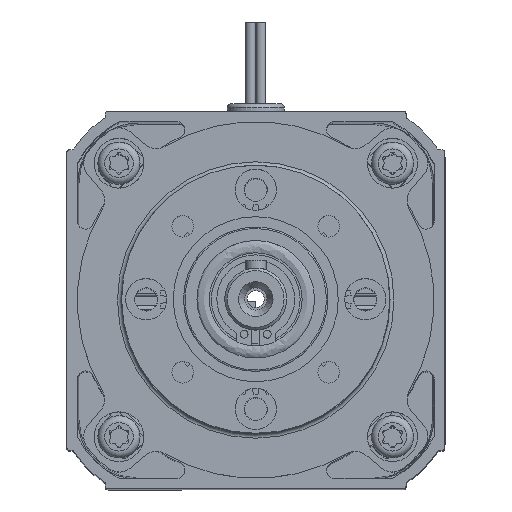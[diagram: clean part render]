
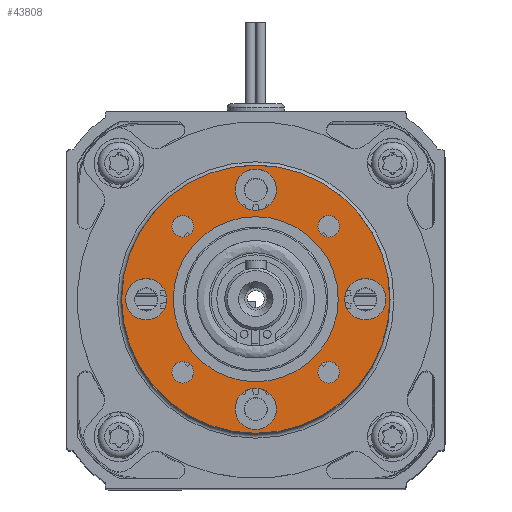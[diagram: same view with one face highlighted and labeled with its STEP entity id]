
A CAD part, top view. The second image highlights one B-rep face of the part: STEP entity #43808.
In plain terms, the highlighted planar face has unit normal (0, 0, 1).
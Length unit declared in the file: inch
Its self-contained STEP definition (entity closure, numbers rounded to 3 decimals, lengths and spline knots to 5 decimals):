
#190 = CIRCLE ( 'NONE', #33316, 0.15748 ) ;
#576 = AXIS2_PLACEMENT_3D ( 'NONE', #53735, #53467, #53278 ) ;
#1169 = AXIS2_PLACEMENT_3D ( 'NONE', #21220, #53957, #25968 ) ;
#1404 = CIRCLE ( 'NONE', #6071, 0.62992 ) ;
#2456 = DIRECTION ( 'NONE',  ( 0., 0., -1. ) ) ;
#2829 = DIRECTION ( 'NONE',  ( 1., 0., 0. ) ) ;
#3227 = EDGE_CURVE ( 'NONE', #24996, #24996, #53689, .T. ) ;
#5293 = EDGE_LOOP ( 'NONE', ( #51143 ) ) ;
#5496 = CARTESIAN_POINT ( 'NONE',  ( -0.4741, 0.55678, 3.573 ) ) ;
#5954 = DIRECTION ( 'NONE',  ( 0., 0., -1. ) ) ;
#6071 = AXIS2_PLACEMENT_3D ( 'NONE', #33899, #5954, #38636 ) ;
#6358 = CARTESIAN_POINT ( 'NONE',  ( 0.55678, 0.55678, 3.573 ) ) ;
#7122 = FACE_OUTER_BOUND ( 'NONE', #20999, .T. ) ;
#7201 = AXIS2_PLACEMENT_3D ( 'NONE', #30456, #2456, #35155 ) ;
#7214 = ORIENTED_EDGE ( 'NONE', *, *, #59225, .T. ) ;
#8120 = VERTEX_POINT ( 'NONE', #56893 ) ;
#8135 = EDGE_CURVE ( 'NONE', #59296, #59296, #47290, .T. ) ;
#8224 = AXIS2_PLACEMENT_3D ( 'NONE', #24610, #57266, #29314 ) ;
#8610 = FACE_BOUND ( 'NONE', #16215, .T. ) ;
#9772 = CARTESIAN_POINT ( 'NONE',  ( 0.15748, -0.83661, 3.573 ) ) ;
#10742 = AXIS2_PLACEMENT_3D ( 'NONE', #58752, #30819, #2829 ) ;
#10922 = AXIS2_PLACEMENT_3D ( 'NONE', #55933, #27949, #60574 ) ;
#11078 = DIRECTION ( 'NONE',  ( 1., 0., 0. ) ) ;
#14004 = DIRECTION ( 'NONE',  ( 0., 0., -1. ) ) ;
#14033 = EDGE_CURVE ( 'NONE', #44037, #44037, #48121, .T. ) ;
#14801 = VERTEX_POINT ( 'NONE', #27954 ) ;
#14947 = AXIS2_PLACEMENT_3D ( 'NONE', #41987, #14004, #46677 ) ;
#15317 = ORIENTED_EDGE ( 'NONE', *, *, #57658, .F. ) ;
#15753 = CARTESIAN_POINT ( 'NONE',  ( -0.83661, 0., 3.573 ) ) ;
#15805 = DIRECTION ( 'NONE',  ( 0., 0., -1. ) ) ;
#15949 = CIRCLE ( 'NONE', #7201, 0.15748 ) ;
#16215 = EDGE_LOOP ( 'NONE', ( #59387 ) ) ;
#16563 = CIRCLE ( 'NONE', #54519, 0.08268 ) ;
#16667 = EDGE_LOOP ( 'NONE', ( #17670 ) ) ;
#17670 = ORIENTED_EDGE ( 'NONE', *, *, #55185, .T. ) ;
#18389 = CARTESIAN_POINT ( 'NONE',  ( 0.99409, 0., 3.573 ) ) ;
#18794 = ORIENTED_EDGE ( 'NONE', *, *, #21888, .T. ) ;
#19539 = FACE_BOUND ( 'NONE', #16667, .T. ) ;
#19551 = CARTESIAN_POINT ( 'NONE',  ( 1.02362, 0., 3.573 ) ) ;
#20367 = DIRECTION ( 'NONE',  ( 1., 0., 0. ) ) ;
#20755 = CIRCLE ( 'NONE', #59690, 0.15748 ) ;
#20856 = EDGE_LOOP ( 'NONE', ( #30075 ) ) ;
#20985 = FACE_BOUND ( 'NONE', #37877, .T. ) ;
#20999 = EDGE_LOOP ( 'NONE', ( #15317 ) ) ;
#21220 = CARTESIAN_POINT ( 'NONE',  ( 0.83661, 0., 3.573 ) ) ;
#21888 = EDGE_CURVE ( 'NONE', #41126, #41126, #15949, .T. ) ;
#21992 = VERTEX_POINT ( 'NONE', #42902 ) ;
#22611 = ORIENTED_EDGE ( 'NONE', *, *, #3227, .T. ) ;
#22844 = CARTESIAN_POINT ( 'NONE',  ( 0.63945, -0.55678, 3.573 ) ) ;
#24610 = CARTESIAN_POINT ( 'NONE',  ( 0., 0., 3.573 ) ) ;
#24996 = VERTEX_POINT ( 'NONE', #31821 ) ;
#25968 = DIRECTION ( 'NONE',  ( 1., 0., 0. ) ) ;
#27949 = DIRECTION ( 'NONE',  ( 0., 0., 1. ) ) ;
#27954 = CARTESIAN_POINT ( 'NONE',  ( 0.63945, 0.55678, 3.573 ) ) ;
#29101 = ORIENTED_EDGE ( 'NONE', *, *, #29859, .T. ) ;
#29314 = DIRECTION ( 'NONE',  ( 1., 0., 0. ) ) ;
#29859 = EDGE_CURVE ( 'NONE', #14801, #14801, #16563, .T. ) ;
#30075 = ORIENTED_EDGE ( 'NONE', *, *, #14033, .T. ) ;
#30456 = CARTESIAN_POINT ( 'NONE',  ( 0., 0.83661, 3.573 ) ) ;
#30819 = DIRECTION ( 'NONE',  ( 0., 0., -1. ) ) ;
#31542 = CIRCLE ( 'NONE', #10742, 0.08268 ) ;
#31821 = CARTESIAN_POINT ( 'NONE',  ( -0.4741, -0.55678, 3.573 ) ) ;
#31949 = FACE_BOUND ( 'NONE', #36247, .T. ) ;
#33316 = AXIS2_PLACEMENT_3D ( 'NONE', #15753, #48440, #20367 ) ;
#33399 = FACE_BOUND ( 'NONE', #34006, .T. ) ;
#33899 = CARTESIAN_POINT ( 'NONE',  ( 0., 0., 3.573 ) ) ;
#34006 = EDGE_LOOP ( 'NONE', ( #18794 ) ) ;
#35155 = DIRECTION ( 'NONE',  ( 1., 0., 0. ) ) ;
#36247 = EDGE_LOOP ( 'NONE', ( #29101 ) ) ;
#37877 = EDGE_LOOP ( 'NONE', ( #7214 ) ) ;
#38636 = DIRECTION ( 'NONE',  ( 1., 0., 0. ) ) ;
#39047 = DIRECTION ( 'NONE',  ( 0., 0., -1. ) ) ;
#41126 = VERTEX_POINT ( 'NONE', #41904 ) ;
#41904 = CARTESIAN_POINT ( 'NONE',  ( 0.15748, 0.83661, 3.573 ) ) ;
#41987 = CARTESIAN_POINT ( 'NONE',  ( 0.55678, -0.55678, 3.573 ) ) ;
#42902 = CARTESIAN_POINT ( 'NONE',  ( 0.62992, 0., 3.573 ) ) ;
#43775 = CARTESIAN_POINT ( 'NONE',  ( 0., -0.83661, 3.573 ) ) ;
#43808 = ADVANCED_FACE ( 'NONE', ( #47384, #20985, #33399, #58231, #8610, #56783, #44464, #31949, #19539, #7122 ), #46391, .T. ) ;
#44037 = VERTEX_POINT ( 'NONE', #18389 ) ;
#44464 = FACE_BOUND ( 'NONE', #48808, .T. ) ;
#44808 = EDGE_CURVE ( 'NONE', #54193, #54193, #20755, .T. ) ;
#45462 = VERTEX_POINT ( 'NONE', #19551 ) ;
#45884 = EDGE_LOOP ( 'NONE', ( #22611 ) ) ;
#46391 = PLANE ( 'NONE',  #10922 ) ;
#46677 = DIRECTION ( 'NONE',  ( 1., 0., 0. ) ) ;
#47290 = CIRCLE ( 'NONE', #14947, 0.08268 ) ;
#47384 = FACE_BOUND ( 'NONE', #5293, .T. ) ;
#48121 = CIRCLE ( 'NONE', #1169, 0.15748 ) ;
#48440 = DIRECTION ( 'NONE',  ( 0., 0., -1. ) ) ;
#48496 = DIRECTION ( 'NONE',  ( 1., 0., 0. ) ) ;
#48808 = EDGE_LOOP ( 'NONE', ( #52154 ) ) ;
#51143 = ORIENTED_EDGE ( 'NONE', *, *, #44808, .T. ) ;
#52154 = ORIENTED_EDGE ( 'NONE', *, *, #54570, .T. ) ;
#52179 = CIRCLE ( 'NONE', #8224, 1.02362 ) ;
#53278 = DIRECTION ( 'NONE',  ( 1., 0., 0. ) ) ;
#53467 = DIRECTION ( 'NONE',  ( 0., 0., -1. ) ) ;
#53689 = CIRCLE ( 'NONE', #576, 0.08268 ) ;
#53735 = CARTESIAN_POINT ( 'NONE',  ( -0.55678, -0.55678, 3.573 ) ) ;
#53957 = DIRECTION ( 'NONE',  ( 0., 0., -1. ) ) ;
#54193 = VERTEX_POINT ( 'NONE', #9772 ) ;
#54519 = AXIS2_PLACEMENT_3D ( 'NONE', #6358, #39047, #11078 ) ;
#54570 = EDGE_CURVE ( 'NONE', #59235, #59235, #31542, .T. ) ;
#55185 = EDGE_CURVE ( 'NONE', #21992, #21992, #1404, .T. ) ;
#55933 = CARTESIAN_POINT ( 'NONE',  ( 0., 0., 3.573 ) ) ;
#56783 = FACE_BOUND ( 'NONE', #45884, .T. ) ;
#56893 = CARTESIAN_POINT ( 'NONE',  ( -0.67913, 0., 3.573 ) ) ;
#57266 = DIRECTION ( 'NONE',  ( 0., 0., -1. ) ) ;
#57658 = EDGE_CURVE ( 'NONE', #45462, #45462, #52179, .T. ) ;
#58231 = FACE_BOUND ( 'NONE', #20856, .T. ) ;
#58752 = CARTESIAN_POINT ( 'NONE',  ( -0.55678, 0.55678, 3.573 ) ) ;
#59225 = EDGE_CURVE ( 'NONE', #8120, #8120, #190, .T. ) ;
#59235 = VERTEX_POINT ( 'NONE', #5496 ) ;
#59296 = VERTEX_POINT ( 'NONE', #22844 ) ;
#59387 = ORIENTED_EDGE ( 'NONE', *, *, #8135, .T. ) ;
#59690 = AXIS2_PLACEMENT_3D ( 'NONE', #43775, #15805, #48496 ) ;
#60574 = DIRECTION ( 'NONE',  ( 1., 0., 0. ) ) ;
